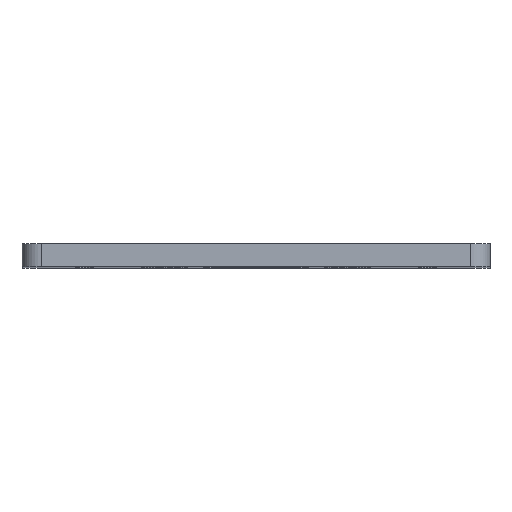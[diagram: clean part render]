
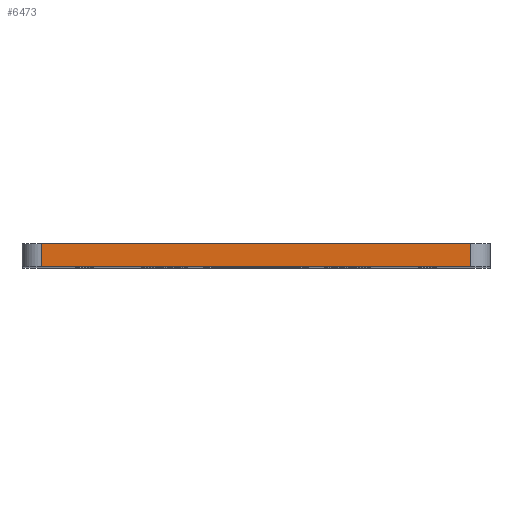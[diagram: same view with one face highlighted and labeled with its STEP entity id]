
A CAD part, top view. The second image highlights one B-rep face of the part: STEP entity #6473.
In plain terms, the highlighted planar face has unit normal (0, 0, 1).
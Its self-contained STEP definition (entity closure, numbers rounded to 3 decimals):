
#44 = PLANE('',#45);
#45 = AXIS2_PLACEMENT_3D('',#46,#47,#48);
#46 = CARTESIAN_POINT('',(0.,6.,72.5));
#47 = DIRECTION('',(0.,-1.,0.));
#48 = DIRECTION('',(1.,0.,0.));
#100 = PLANE('',#101);
#101 = AXIS2_PLACEMENT_3D('',#102,#103,#104);
#102 = CARTESIAN_POINT('',(0.,0.,72.5));
#103 = DIRECTION('',(0.,-1.,0.));
#104 = DIRECTION('',(1.,0.,0.));
#195 = VERTEX_POINT('',#196);
#196 = CARTESIAN_POINT('',(55.,6.,180.));
#211 = CYLINDRICAL_SURFACE('',#212,5.);
#212 = AXIS2_PLACEMENT_3D('',#213,#214,#215);
#213 = CARTESIAN_POINT('',(55.,6.,175.));
#214 = DIRECTION('',(0.,-1.,0.));
#215 = DIRECTION('',(1.,0.,0.));
#223 = EDGE_CURVE('',#195,#224,#226,.T.);
#224 = VERTEX_POINT('',#225);
#225 = CARTESIAN_POINT('',(-55.,6.,180.));
#226 = SURFACE_CURVE('',#227,(#231,#238),.PCURVE_S1.);
#227 = LINE('',#228,#229);
#228 = CARTESIAN_POINT('',(60.,6.,180.));
#229 = VECTOR('',#230,1.);
#230 = DIRECTION('',(-1.,0.,0.));
#231 = PCURVE('',#44,#232);
#232 = DEFINITIONAL_REPRESENTATION('',(#233),#237);
#233 = LINE('',#234,#235);
#234 = CARTESIAN_POINT('',(60.,107.5));
#235 = VECTOR('',#236,1.);
#236 = DIRECTION('',(-1.,0.));
#237 = ( GEOMETRIC_REPRESENTATION_CONTEXT(2) 
PARAMETRIC_REPRESENTATION_CONTEXT() REPRESENTATION_CONTEXT('2D SPACE',''
  ) );
#238 = PCURVE('',#239,#244);
#239 = PLANE('',#240);
#240 = AXIS2_PLACEMENT_3D('',#241,#242,#243);
#241 = CARTESIAN_POINT('',(60.,6.,180.));
#242 = DIRECTION('',(0.,0.,-1.));
#243 = DIRECTION('',(-1.,0.,0.));
#244 = DEFINITIONAL_REPRESENTATION('',(#245),#249);
#245 = LINE('',#246,#247);
#246 = CARTESIAN_POINT('',(0.,0.));
#247 = VECTOR('',#248,1.);
#248 = DIRECTION('',(1.,0.));
#249 = ( GEOMETRIC_REPRESENTATION_CONTEXT(2) 
PARAMETRIC_REPRESENTATION_CONTEXT() REPRESENTATION_CONTEXT('2D SPACE',''
  ) );
#268 = CYLINDRICAL_SURFACE('',#269,5.);
#269 = AXIS2_PLACEMENT_3D('',#270,#271,#272);
#270 = CARTESIAN_POINT('',(-55.,6.,175.));
#271 = DIRECTION('',(0.,-1.,0.));
#272 = DIRECTION('',(0.,0.,1.));
#1362 = VERTEX_POINT('',#1363);
#1363 = CARTESIAN_POINT('',(55.,0.,180.));
#1385 = EDGE_CURVE('',#1362,#1386,#1388,.T.);
#1386 = VERTEX_POINT('',#1387);
#1387 = CARTESIAN_POINT('',(-55.,0.,180.));
#1388 = SURFACE_CURVE('',#1389,(#1393,#1400),.PCURVE_S1.);
#1389 = LINE('',#1390,#1391);
#1390 = CARTESIAN_POINT('',(60.,0.,180.));
#1391 = VECTOR('',#1392,1.);
#1392 = DIRECTION('',(-1.,0.,0.));
#1393 = PCURVE('',#100,#1394);
#1394 = DEFINITIONAL_REPRESENTATION('',(#1395),#1399);
#1395 = LINE('',#1396,#1397);
#1396 = CARTESIAN_POINT('',(60.,107.5));
#1397 = VECTOR('',#1398,1.);
#1398 = DIRECTION('',(-1.,0.));
#1399 = ( GEOMETRIC_REPRESENTATION_CONTEXT(2) 
PARAMETRIC_REPRESENTATION_CONTEXT() REPRESENTATION_CONTEXT('2D SPACE',''
  ) );
#1400 = PCURVE('',#239,#1401);
#1401 = DEFINITIONAL_REPRESENTATION('',(#1402),#1406);
#1402 = LINE('',#1403,#1404);
#1403 = CARTESIAN_POINT('',(0.,-6.));
#1404 = VECTOR('',#1405,1.);
#1405 = DIRECTION('',(1.,0.));
#1406 = ( GEOMETRIC_REPRESENTATION_CONTEXT(2) 
PARAMETRIC_REPRESENTATION_CONTEXT() REPRESENTATION_CONTEXT('2D SPACE',''
  ) );
#6426 = EDGE_CURVE('',#224,#1386,#6427,.T.);
#6427 = SURFACE_CURVE('',#6428,(#6432,#6439),.PCURVE_S1.);
#6428 = LINE('',#6429,#6430);
#6429 = CARTESIAN_POINT('',(-55.,6.,180.));
#6430 = VECTOR('',#6431,1.);
#6431 = DIRECTION('',(0.,-1.,0.));
#6432 = PCURVE('',#268,#6433);
#6433 = DEFINITIONAL_REPRESENTATION('',(#6434),#6438);
#6434 = LINE('',#6435,#6436);
#6435 = CARTESIAN_POINT('',(0.,0.));
#6436 = VECTOR('',#6437,1.);
#6437 = DIRECTION('',(0.,1.));
#6438 = ( GEOMETRIC_REPRESENTATION_CONTEXT(2) 
PARAMETRIC_REPRESENTATION_CONTEXT() REPRESENTATION_CONTEXT('2D SPACE',''
  ) );
#6439 = PCURVE('',#239,#6440);
#6440 = DEFINITIONAL_REPRESENTATION('',(#6441),#6445);
#6441 = LINE('',#6442,#6443);
#6442 = CARTESIAN_POINT('',(115.,0.));
#6443 = VECTOR('',#6444,1.);
#6444 = DIRECTION('',(0.,-1.));
#6445 = ( GEOMETRIC_REPRESENTATION_CONTEXT(2) 
PARAMETRIC_REPRESENTATION_CONTEXT() REPRESENTATION_CONTEXT('2D SPACE',''
  ) );
#6451 = EDGE_CURVE('',#195,#1362,#6452,.T.);
#6452 = SURFACE_CURVE('',#6453,(#6457,#6464),.PCURVE_S1.);
#6453 = LINE('',#6454,#6455);
#6454 = CARTESIAN_POINT('',(55.,6.,180.));
#6455 = VECTOR('',#6456,1.);
#6456 = DIRECTION('',(0.,-1.,0.));
#6457 = PCURVE('',#211,#6458);
#6458 = DEFINITIONAL_REPRESENTATION('',(#6459),#6463);
#6459 = LINE('',#6460,#6461);
#6460 = CARTESIAN_POINT('',(1.571,0.));
#6461 = VECTOR('',#6462,1.);
#6462 = DIRECTION('',(0.,1.));
#6463 = ( GEOMETRIC_REPRESENTATION_CONTEXT(2) 
PARAMETRIC_REPRESENTATION_CONTEXT() REPRESENTATION_CONTEXT('2D SPACE',''
  ) );
#6464 = PCURVE('',#239,#6465);
#6465 = DEFINITIONAL_REPRESENTATION('',(#6466),#6470);
#6466 = LINE('',#6467,#6468);
#6467 = CARTESIAN_POINT('',(5.,0.));
#6468 = VECTOR('',#6469,1.);
#6469 = DIRECTION('',(0.,-1.));
#6470 = ( GEOMETRIC_REPRESENTATION_CONTEXT(2) 
PARAMETRIC_REPRESENTATION_CONTEXT() REPRESENTATION_CONTEXT('2D SPACE',''
  ) );
#6473 = ADVANCED_FACE('',(#6474),#239,.F.);
#6474 = FACE_BOUND('',#6475,.F.);
#6475 = EDGE_LOOP('',(#6476,#6477,#6478,#6479));
#6476 = ORIENTED_EDGE('',*,*,#223,.F.);
#6477 = ORIENTED_EDGE('',*,*,#6451,.T.);
#6478 = ORIENTED_EDGE('',*,*,#1385,.T.);
#6479 = ORIENTED_EDGE('',*,*,#6426,.F.);
